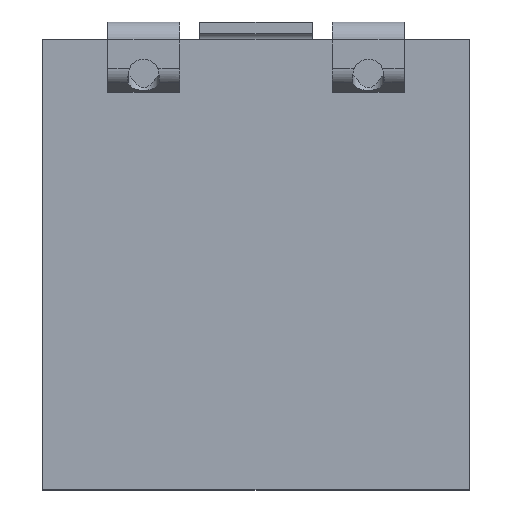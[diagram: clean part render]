
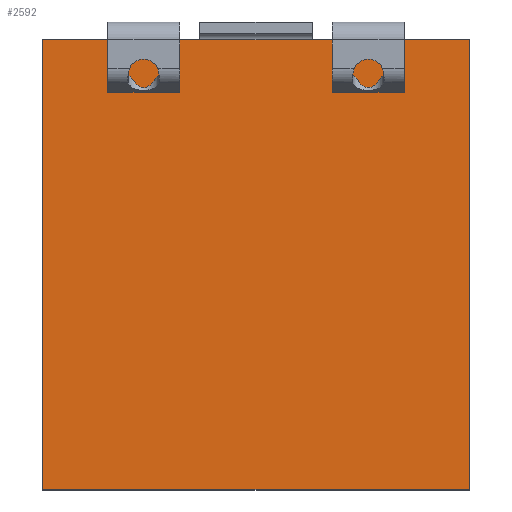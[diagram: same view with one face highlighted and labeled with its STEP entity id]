
A CAD part, top view. The second image highlights one B-rep face of the part: STEP entity #2592.
In plain terms, the highlighted planar face has unit normal (0, 0, 1).
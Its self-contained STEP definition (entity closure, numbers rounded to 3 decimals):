
#74=PLANE('',#2803);
#235=LINE('',#3769,#494);
#236=LINE('',#3773,#495);
#238=LINE('',#3785,#497);
#240=LINE('',#3789,#499);
#241=LINE('',#3791,#500);
#244=LINE('',#3800,#503);
#247=LINE('',#3806,#506);
#250=LINE('',#3814,#509);
#253=LINE('',#3820,#512);
#256=LINE('',#3826,#515);
#309=LINE('',#4133,#568);
#312=LINE('',#4139,#571);
#313=LINE('',#4141,#572);
#317=LINE('',#4149,#576);
#494=VECTOR('',#3000,1000.);
#495=VECTOR('',#3005,1000.);
#497=VECTOR('',#3015,1000.);
#499=VECTOR('',#3019,1000.);
#500=VECTOR('',#3022,1000.);
#503=VECTOR('',#3029,1000.);
#506=VECTOR('',#3034,1000.);
#509=VECTOR('',#3041,1000.);
#512=VECTOR('',#3046,1000.);
#515=VECTOR('',#3053,1000.);
#568=VECTOR('',#3258,1000.);
#571=VECTOR('',#3263,1000.);
#572=VECTOR('',#3266,1000.);
#576=VECTOR('',#3274,1000.);
#1116=ORIENTED_EDGE('',*,*,#1558,.T.);
#1117=ORIENTED_EDGE('',*,*,#1556,.F.);
#1118=ORIENTED_EDGE('',*,*,#1554,.F.);
#1119=ORIENTED_EDGE('',*,*,#1551,.F.);
#1120=ORIENTED_EDGE('',*,*,#1549,.T.);
#1121=ORIENTED_EDGE('',*,*,#1559,.F.);
#1122=ORIENTED_EDGE('',*,*,#1573,.T.);
#1123=ORIENTED_EDGE('',*,*,#1570,.F.);
#1124=ORIENTED_EDGE('',*,*,#1698,.F.);
#1125=ORIENTED_EDGE('',*,*,#1563,.F.);
#1126=ORIENTED_EDGE('',*,*,#1566,.T.);
#1127=ORIENTED_EDGE('',*,*,#1577,.F.);
#1128=ORIENTED_EDGE('',*,*,#1693,.F.);
#1129=ORIENTED_EDGE('',*,*,#1692,.F.);
#1130=ORIENTED_EDGE('',*,*,#1689,.T.);
#1131=ORIENTED_EDGE('',*,*,#1697,.T.);
#1549=EDGE_CURVE('',#1906,#1907,#235,.T.);
#1551=EDGE_CURVE('',#1906,#1908,#236,.T.);
#1554=EDGE_CURVE('',#1908,#1909,#2124,.F.);
#1556=EDGE_CURVE('',#1909,#1910,#238,.T.);
#1558=EDGE_CURVE('',#1911,#1910,#240,.T.);
#1559=EDGE_CURVE('',#1911,#1907,#241,.T.);
#1563=EDGE_CURVE('',#1915,#1913,#244,.T.);
#1566=EDGE_CURVE('',#1915,#1917,#247,.T.);
#1570=EDGE_CURVE('',#1920,#1919,#250,.T.);
#1573=EDGE_CURVE('',#1921,#1919,#253,.T.);
#1577=EDGE_CURVE('',#1921,#1917,#256,.T.);
#1689=EDGE_CURVE('',#1995,#1997,#309,.T.);
#1692=EDGE_CURVE('',#1995,#1999,#312,.T.);
#1693=EDGE_CURVE('',#1999,#2000,#313,.T.);
#1697=EDGE_CURVE('',#1997,#2000,#317,.T.);
#1698=EDGE_CURVE('',#1913,#1920,#2150,.F.);
#1906=VERTEX_POINT('',#3766);
#1907=VERTEX_POINT('',#3768);
#1908=VERTEX_POINT('',#3772);
#1909=VERTEX_POINT('',#3776);
#1910=VERTEX_POINT('',#3784);
#1911=VERTEX_POINT('',#3788);
#1913=VERTEX_POINT('',#3795);
#1915=VERTEX_POINT('',#3799);
#1917=VERTEX_POINT('',#3805);
#1919=VERTEX_POINT('',#3810);
#1920=VERTEX_POINT('',#3813);
#1921=VERTEX_POINT('',#3817);
#1995=VERTEX_POINT('',#4128);
#1997=VERTEX_POINT('',#4132);
#1999=VERTEX_POINT('',#4137);
#2000=VERTEX_POINT('',#4142);
#2124=B_SPLINE_CURVE_WITH_KNOTS('',3,(#3778,#3779,#3780,#3781),
 .UNSPECIFIED.,.F.,.F.,(4,4),(0.,1.),.UNSPECIFIED.);
#2150=B_SPLINE_CURVE_WITH_KNOTS('',3,(#4151,#4152,#4153,#4154),
 .UNSPECIFIED.,.F.,.F.,(4,4),(0.,1.),.UNSPECIFIED.);
#2247=EDGE_LOOP('',(#1116,#1117,#1118,#1119,#1120,#1121));
#2248=EDGE_LOOP('',(#1122,#1123,#1124,#1125,#1126,#1127));
#2249=EDGE_LOOP('',(#1128,#1129,#1130,#1131));
#2401=FACE_BOUND('',#2247,.T.);
#2402=FACE_BOUND('',#2248,.T.);
#2403=FACE_BOUND('',#2249,.T.);
#2592=ADVANCED_FACE('',(#2401,#2402,#2403),#74,.T.);
#2803=AXIS2_PLACEMENT_3D('',#4150,#3275,#3276);
#3000=DIRECTION('',(0.,-1.,0.));
#3005=DIRECTION('',(-1.,0.,0.));
#3015=DIRECTION('',(-1.,0.,0.));
#3019=DIRECTION('',(0.,1.,0.));
#3022=DIRECTION('',(1.,0.,0.));
#3029=DIRECTION('',(-1.,0.,0.));
#3034=DIRECTION('',(0.,-1.,0.));
#3041=DIRECTION('',(-1.,0.,0.));
#3046=DIRECTION('',(0.,1.,0.));
#3053=DIRECTION('',(1.,0.,0.));
#3258=DIRECTION('',(0.,1.,0.));
#3263=DIRECTION('',(-1.,0.,0.));
#3266=DIRECTION('',(0.,1.,0.));
#3274=DIRECTION('',(-1.,0.,0.));
#3275=DIRECTION('',(0.,0.,1.));
#3276=DIRECTION('',(-1.,0.,0.));
#3766=CARTESIAN_POINT('',(1.372,2.363,0.));
#3768=CARTESIAN_POINT('',(1.372,2.206,0.));
#3769=CARTESIAN_POINT('',(1.372,2.363,0.));
#3772=CARTESIAN_POINT('',(1.099,2.363,0.));
#3773=CARTESIAN_POINT('',(1.372,2.363,0.));
#3776=CARTESIAN_POINT('',(0.831,2.363,0.));
#3778=CARTESIAN_POINT('',(0.831,2.363,0.));
#3779=CARTESIAN_POINT('',(0.904,2.221,0.));
#3780=CARTESIAN_POINT('',(1.024,2.218,0.));
#3781=CARTESIAN_POINT('',(1.099,2.363,0.));
#3784=CARTESIAN_POINT('',(0.559,2.363,0.));
#3785=CARTESIAN_POINT('',(0.831,2.363,0.));
#3788=CARTESIAN_POINT('',(0.559,2.206,0.));
#3789=CARTESIAN_POINT('',(0.559,2.206,0.));
#3791=CARTESIAN_POINT('',(0.559,2.206,0.));
#3795=CARTESIAN_POINT('',(-1.441,2.363,0.));
#3799=CARTESIAN_POINT('',(-1.168,2.363,0.));
#3800=CARTESIAN_POINT('',(-1.168,2.363,0.));
#3805=CARTESIAN_POINT('',(-1.168,2.206,0.));
#3806=CARTESIAN_POINT('',(-1.168,2.363,0.));
#3810=CARTESIAN_POINT('',(-1.981,2.363,0.));
#3813=CARTESIAN_POINT('',(-1.709,2.363,0.));
#3814=CARTESIAN_POINT('',(-1.709,2.363,0.));
#3817=CARTESIAN_POINT('',(-1.981,2.206,0.));
#3820=CARTESIAN_POINT('',(-1.981,2.206,0.));
#3826=CARTESIAN_POINT('',(-1.981,2.206,0.));
#4128=CARTESIAN_POINT('',(2.108,-2.286,0.));
#4132=CARTESIAN_POINT('',(2.108,2.794,0.));
#4133=CARTESIAN_POINT('',(2.108,-2.286,0.));
#4137=CARTESIAN_POINT('',(-2.718,-2.286,0.));
#4139=CARTESIAN_POINT('',(2.108,-2.286,0.));
#4141=CARTESIAN_POINT('',(-2.718,-2.286,0.));
#4142=CARTESIAN_POINT('',(-2.718,2.794,0.));
#4149=CARTESIAN_POINT('',(2.108,2.794,0.));
#4150=CARTESIAN_POINT('',(-0.305,0.254,0.));
#4151=CARTESIAN_POINT('',(-1.709,2.363,0.));
#4152=CARTESIAN_POINT('',(-1.636,2.221,0.));
#4153=CARTESIAN_POINT('',(-1.516,2.218,0.));
#4154=CARTESIAN_POINT('',(-1.441,2.363,0.));
